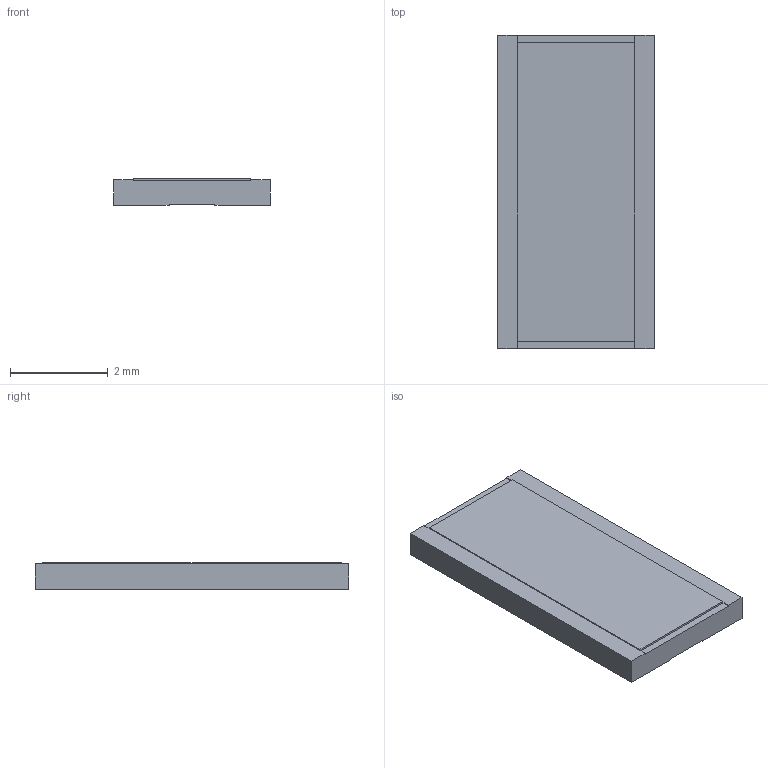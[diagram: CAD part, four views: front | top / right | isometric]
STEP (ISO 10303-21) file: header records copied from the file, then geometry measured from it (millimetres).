
FILE_DESCRIPTION(/* description */ ('','CAx-IF Rec.Pracs.---Representation and Presentation of Product Manufacturing Information (PMI)---4.0---2014-10-13'),/* implementation_level */ '2;1');
FILE_NAME(/* name */ 'LTR100.step',/* time_stamp */ '2024-12-25T09:53:50+09:00',/* author */ (''),/* organization */ (''),/* preprocessor_version */ 'ST-DEVELOPER v20',/* originating_system */ 'Autodesk Translation Framework v13.20.0.188',/* authorisation */ '');
FILE_SCHEMA (('AP242_MANAGED_MODEL_BASED_3D_ENGINEERING_MIM_LF { 1 0 10303 442 1 1 4 }'));
Length unit declared in the file: millimetre
Products named in the file (1): LTR100
Bounding box: 3.2 x 6.4 x 0.55 mm (x, y, z)
Volume: 11 mm3; surface area: 51.7 mm2
Topology: 1 solids, 1 shells, 22 faces, 56 edges, 36 vertices
Faces by surface type: plane 22
Entity records: 688 total; most frequent: CARTESIAN_POINT 115, ORIENTED_EDGE 112, DIRECTION 102, LINE 56, VECTOR 56, EDGE_CURVE 56, VERTEX_POINT 36, AXIS2_PLACEMENT_3D 23
